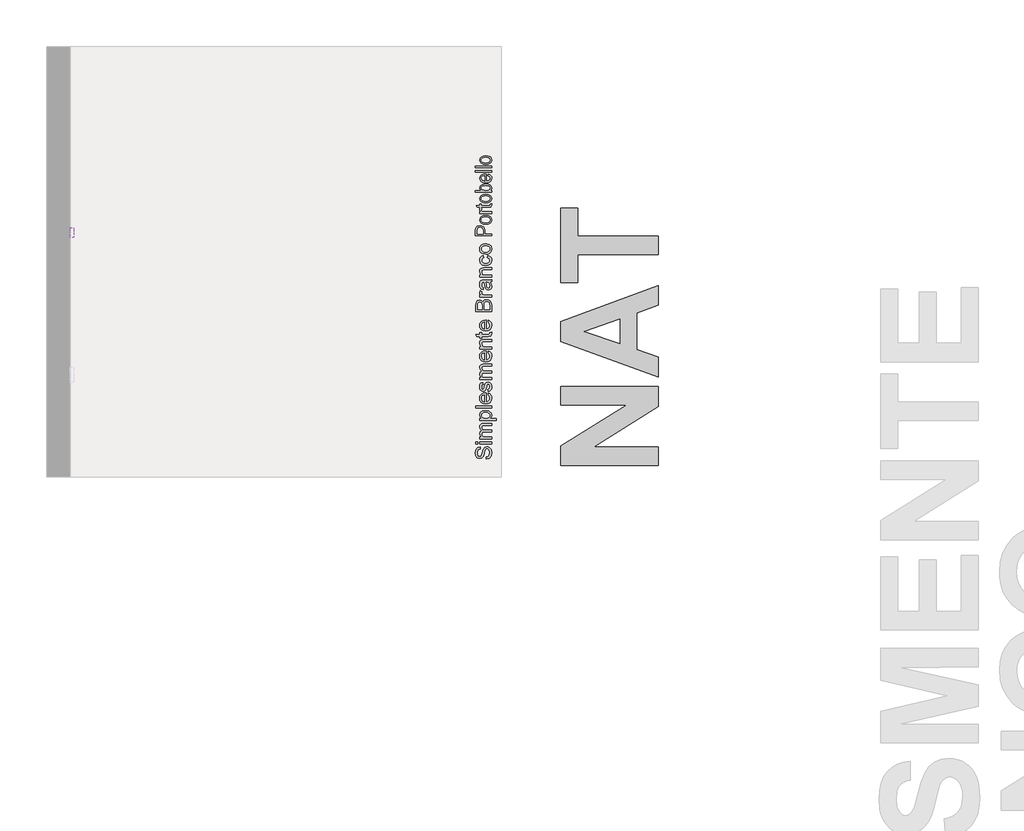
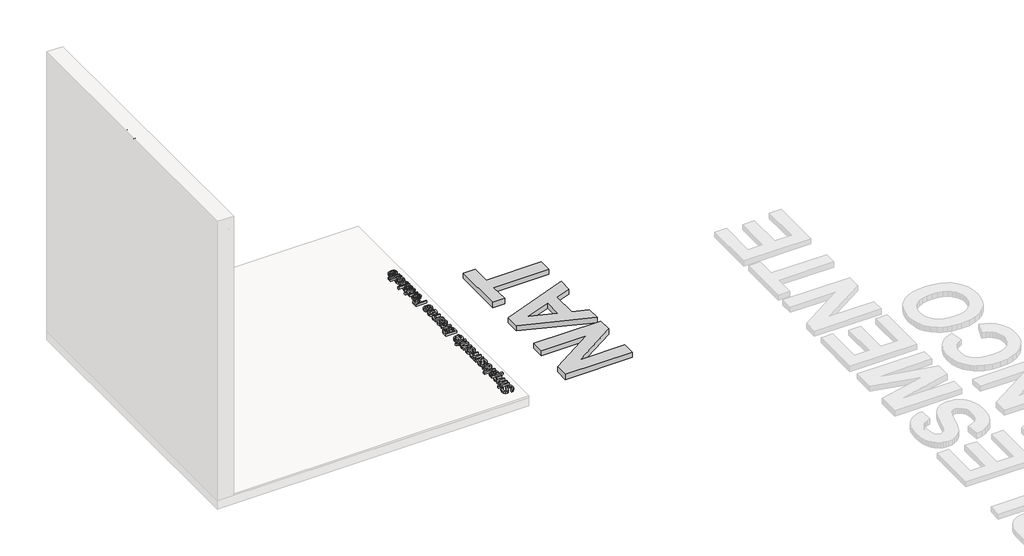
# One storey, part 5 of 6: 4 proxies.
"""IFC4 building model written with IfcOpenShell, lengths in millimetres."""

from ifc_helpers import new_model, si_unit, frame, origin, origin_with_axes, place, context, project, spatial, polyline, outline, extrude, element, save

model = new_model("IFC4")

# Units and contexts
model_context = context("Model", 3, world=origin())
ifc_project = project(units=[si_unit("LENGTHUNIT", "METRE", prefix="MILLI")], contexts=[model_context])

# Site, building, storey
site = spatial("IfcSite", under=ifc_project)
building = spatial("IfcBuilding", under=site)
storey = spatial("IfcBuildingStorey", under=building, Name="PORTOBELLO - SHOWROOM", Elevation=0.0)

# Proxies
placement = place(None, origin())
element("IfcBuildingElementProxy", 1, Name="10mm Arial", ObjectType="10mm Arial", at=placement, inside=storey, context=model_context, shape_type="SweptSolid", body=[
    extrude(outline(polyline([(243776.2626228, -2518.9511253), (243776.2626228, -2506.3940866), (243788.8319243, -2502.3473846), (243796.7781754, -2492.4636217), (243799.8070705, -2477.4049853), (243797.5139394, -2464.2838608), (243791.2108946, -2455.8103122), (243782.7863969, -2453.0266718), (243774.9505104, -2455.1113364), (243769.2483395, -2463.6461987), (243764.4536108, -2481.9299339), (243758.2609305, -2501.6116206), (243748.9167279, -2512.2924612), (243736.4332655, -2515.8118656), (243722.2207577, -2511.4585954), (243712.189842, -2498.7421411), (243708.7685395, -2480.1273121), (243712.3492575, -2460.2616844), (243722.8706826, -2447.0179325), (243738.5915065, -2442.0392629), (243738.5915065, -2454.5963016), (243731.0989766, -2456.9016955), (243725.6911112, -2461.7086869), (243721.3255782, -2479.6368028), (243725.6420603, -2497.6139696), (243736.0653835, -2503.2548269), (243744.771924, -2499.2571759), (243751.7862074, -2478.753886), (243758.0892523, -2456.5338135), (243768.2673208, -2444.3814449), (243782.4675658, -2440.469633), (243797.489414, -2444.9700561), (243808.4522974, -2457.9195023), (243812.3641093, -2476.914476), (243808.1457291, -2499.343015), (243795.4415375, -2513.5309973), (243776.2626228, -2518.9511253)])), frame((0.0, 0.0, 17.0), z_axis=(0.0, 0.0, 1.0), x_axis=(1.0, 0.0, 0.0)), (0.0, 0.0, 1.0), 20.0),
    extrude(outline(polyline([(243722.8952081, -2423.2037047), (243710.3381693, -2423.2037047), (243710.3381693, -2410.6466659), (243722.8952081, -2410.6466659), (243722.8952081, -2423.2037047)])), frame((0.0, 0.0, 17.0), z_axis=(0.0, 0.0, 1.0), x_axis=(1.0, 0.0, 0.0)), (0.0, 0.0, 1.0), 20.0),
    extrude(outline(polyline([(243810.7944794, -2423.2037047), (243737.0218767, -2423.2037047), (243737.0218767, -2410.6466659), (243810.7944794, -2410.6466659), (243810.7944794, -2423.2037047)])), frame((0.0, 0.0, 17.0), z_axis=(0.0, 0.0, 1.0), x_axis=(1.0, 0.0, 0.0)), (0.0, 0.0, 1.0), 20.0),
    extrude(outline(polyline([(243810.7944794, -2391.8111078), (243737.0218767, -2391.8111078), (243737.0218767, -2379.254069), (243749.1619825, -2379.254069), (243739.2169059, -2370.6211049), (243735.4522468, -2358.3338462), (243739.2904823, -2345.752282), (243750.0448993, -2338.8361005), (243739.10041, -2329.0381767), (243735.4522468, -2316.6650789), (243736.9697601, -2307.2258401), (243741.5222998, -2300.2452792), (243749.2324932, -2295.9318628), (243760.2229678, -2294.4940573), (243810.7944794, -2294.4940573), (243810.7944794, -2307.0510961), (243765.6185704, -2307.0510961), (243755.1339336, -2308.2160558), (243749.9713229, -2312.434436), (243748.0092856, -2319.6081349), (243753.0370062, -2331.9567072), (243759.5791744, -2335.6447242), (243769.1502376, -2336.8740632), (243810.7944794, -2336.8740632), (243810.7944794, -2349.4311019), (243764.2206189, -2349.4311019), (243752.0559876, -2352.3373697), (243748.0092856, -2361.8655134), (243750.7070869, -2371.1606651), (243758.6042871, -2377.3410826), (243773.589347, -2379.254069), (243810.7944794, -2379.254069), (243810.7944794, -2391.8111078)])), frame((0.0, 0.0, 17.0), z_axis=(0.0, 0.0, 1.0), x_axis=(1.0, 0.0, 0.0)), (0.0, 0.0, 1.0), 20.0),
    extrude(outline(polyline([(243839.0478167, -2275.6584992), (243737.0218767, -2275.6584992), (243737.0218767, -2263.1014604), (243749.3336608, -2263.1014604), (243738.9226003, -2254.4194453), (243735.4522468, -2242.6962724), (243740.3082892, -2226.7792448), (243753.9934994, -2216.380447), (243773.3440923, -2212.8733053), (243793.6879667, -2216.8341682), (243807.5448552, -2228.3366119), (243812.3641093, -2244.2168513), (243809.1390105, -2255.1429466), (243800.9842929, -2263.1014604), (243839.0478167, -2263.1014604), (243839.0478167, -2275.6584992)]), holes=[polyline([(243774.4967893, -2263.1014604), (243785.7539783, -2261.7433627), (243793.626653, -2257.6690696), (243798.2619661, -2251.6572647), (243799.8070705, -2244.4866315), (243798.2067838, -2237.1995023), (243793.4059238, -2231.0344132), (243785.2450749, -2226.8313614), (243773.5648215, -2225.4303441), (243762.3689462, -2226.7976389), (243754.3859069, -2230.8995231), (243749.6034409, -2236.902131), (243748.0092856, -2243.9715967), (243749.7046085, -2251.0686535), (243754.790577, -2257.3011876), (243763.1077758, -2261.6513922), (243774.4967893, -2263.1014604)])]), frame((0.0, 0.0, 17.0), z_axis=(0.0, 0.0, 1.0), x_axis=(1.0, 0.0, 0.0)), (0.0, 0.0, 1.0), 20.0),
    extrude(outline(polyline([(243810.7944794, -2198.7466367), (243710.3381693, -2198.7466367), (243710.3381693, -2186.189598), (243810.7944794, -2186.189598), (243810.7944794, -2198.7466367)])), frame((0.0, 0.0, 17.0), z_axis=(0.0, 0.0, 1.0), x_axis=(1.0, 0.0, 0.0)), (0.0, 0.0, 1.0), 20.0),
    extrude(outline(polyline([(243788.8196616, -2115.7034077), (243790.3892914, -2103.3916236), (243799.6660491, -2107.8276673), (243806.6006247, -2114.90633), (243810.9232381, -2124.4681962), (243812.3641093, -2136.3538503), (243809.8778401, -2151.0875242), (243802.4190327, -2162.4244211), (243790.4720649, -2169.6533023), (243774.5213147, -2172.0629293), (243758.03407, -2169.6287768), (243745.7038918, -2162.3263192), (243738.0151581, -2151.1427065), (243735.4522468, -2137.0650889), (243738.0090267, -2123.4258639), (243745.6793663, -2112.5273598), (243757.985019, -2105.381252), (243774.4477383, -2102.9992161), (243777.8322527, -2103.0727925), (243777.8322527, -2159.5058906), (243787.2316377, -2157.3323211), (243794.1416878, -2152.2831407), (243798.3907248, -2144.9960115), (243799.8070705, -2136.1085957), (243797.1828456, -2123.7968116), (243788.8196616, -2115.7034077)]), holes=[polyline([(243765.2752139, -2159.5058906), (243765.2752139, -2115.5562549), (243753.8953975, -2120.5839755), (243749.4808136, -2127.9048272), (243748.0092856, -2137.1141398), (243752.7059124, -2152.5774463), (243758.1965512, -2157.4426857), (243765.2752139, -2159.5058906)])]), frame((0.0, 0.0, 17.0), z_axis=(0.0, 0.0, 1.0), x_axis=(1.0, 0.0, 0.0)), (0.0, 0.0, 1.0), 20.0),
    extrude(outline(polyline([(243788.8196616, -2095.1510669), (243787.2500318, -2082.5940281), (243796.569709, -2076.7814926), (243799.8070705, -2063.4641644), (243796.8394891, -2050.6618709), (243789.8742567, -2046.4925417), (243784.2333994, -2050.6863964), (243780.6526813, -2063.6113172), (243774.509052, -2082.5204517), (243767.3353531, -2090.7732711), (243757.2063355, -2093.581437), (243747.8498701, -2091.3250941), (243740.7006966, -2085.1692021), (243736.9850885, -2077.1861628), (243735.4522468, -2066.3826949), (243737.9170562, -2051.1033293), (243744.5879831, -2041.3912447), (243755.8574348, -2037.0747626), (243757.4270647, -2049.6318013), (243750.4986204, -2054.3529536), (243748.0092856, -2065.4016762), (243750.3882558, -2077.4191547), (243755.9310112, -2081.0243983), (243759.5853057, -2079.5283448), (243762.3566834, -2074.8439807), (243765.0299592, -2064.0282501), (243770.9405966, -2045.5973621), (243777.636049, -2037.0379744), (243788.5498815, -2033.9355029), (243800.56736, -2037.5775346), (243809.2861633, -2048.086697), (243812.3641093, -2063.6358426), (243810.8803186, -2076.2971146), (243806.4289464, -2085.5370841), (243799.0590438, -2091.7052389), (243788.8196616, -2095.1510669)])), frame((0.0, 0.0, 17.0), z_axis=(0.0, 0.0, 1.0), x_axis=(1.0, 0.0, 0.0)), (0.0, 0.0, 1.0), 20.0),
    extrude(outline(polyline([(243810.7944794, -2019.8088343), (243737.0218767, -2019.8088343), (243737.0218767, -2007.2517955), (243749.1619825, -2007.2517955), (243739.2169059, -1998.6188313), (243735.4522468, -1986.3315727), (243739.2904823, -1973.7500085), (243750.0448993, -1966.833827), (243739.10041, -1957.0359032), (243735.4522468, -1944.6628054), (243736.9697601, -1935.2235665), (243741.5222998, -1928.2430057), (243749.2324932, -1923.9295893), (243760.2229678, -1922.4917838), (243810.7944794, -1922.4917838), (243810.7944794, -1935.0488226), (243765.6185704, -1935.0488226), (243755.1339336, -1936.2137822), (243749.9713229, -1940.4321624), (243748.0092856, -1947.6058614), (243753.0370062, -1959.9544337), (243759.5791744, -1963.6424507), (243769.1502376, -1964.8717897), (243810.7944794, -1964.8717897), (243810.7944794, -1977.4288284), (243764.2206189, -1977.4288284), (243752.0559876, -1980.3350962), (243748.0092856, -1989.8632399), (243750.7070869, -1999.1583916), (243758.6042871, -2005.3388091), (243773.589347, -2007.2517955), (243810.7944794, -2007.2517955), (243810.7944794, -2019.8088343)])), frame((0.0, 0.0, 17.0), z_axis=(0.0, 0.0, 1.0), x_axis=(1.0, 0.0, 0.0)), (0.0, 0.0, 1.0), 20.0),
    extrude(outline(polyline([(243788.8196616, -1852.0055935), (243790.3892914, -1839.6938094), (243799.6660491, -1844.1298532), (243806.6006247, -1851.2085159), (243810.9232381, -1860.7703821), (243812.3641093, -1872.6560362), (243809.8778401, -1887.3897101), (243802.4190327, -1898.7266069), (243790.4720649, -1905.9554881), (243774.5213147, -1908.3651152), (243758.03407, -1905.9309627), (243745.7038918, -1898.6285051), (243738.0151581, -1887.4448924), (243735.4522468, -1873.3672747), (243738.0090267, -1859.7280498), (243745.6793663, -1848.8295456), (243757.985019, -1841.6834379), (243774.4477383, -1839.301402), (243777.8322527, -1839.3749784), (243777.8322527, -1895.8080764), (243787.2316377, -1893.634507), (243794.1416878, -1888.5853266), (243798.3907248, -1881.2981974), (243799.8070705, -1872.4107815), (243797.1828456, -1860.0989974), (243788.8196616, -1852.0055935)]), holes=[polyline([(243765.2752139, -1895.8080764), (243765.2752139, -1851.8584407), (243753.8953975, -1856.8861613), (243749.4808136, -1864.207013), (243748.0092856, -1873.4163257), (243752.7059124, -1888.8796322), (243758.1965512, -1893.7448716), (243765.2752139, -1895.8080764)])]), frame((0.0, 0.0, 17.0), z_axis=(0.0, 0.0, 1.0), x_axis=(1.0, 0.0, 0.0)), (0.0, 0.0, 1.0), 20.0),
    extrude(outline(polyline([(243810.7944794, -1826.7443632), (243737.0218767, -1826.7443632), (243737.0218767, -1814.1873244), (243747.3225725, -1814.1873244), (243738.4198283, -1804.5856044), (243735.4522468, -1791.4767426), (243737.8434798, -1779.6186796), (243744.1219992, -1771.5252757), (243753.3558373, -1767.7606166), (243765.4959431, -1767.0984291), (243810.7944794, -1767.0984291), (243810.7944794, -1779.6554678), (243767.1882003, -1779.6554678), (243756.078164, -1781.1024703), (243750.2043148, -1786.2160301), (243748.0092856, -1794.8367315), (243752.9389043, -1808.460628), (243760.0819464, -1812.7556503), (243771.6518352, -1814.1873244), (243810.7944794, -1814.1873244), (243810.7944794, -1826.7443632)])), frame((0.0, 0.0, 17.0), z_axis=(0.0, 0.0, 1.0), x_axis=(1.0, 0.0, 0.0)), (0.0, 0.0, 1.0), 20.0),
    extrude(outline(polyline([(243800.3221053, -1723.1487934), (243811.1623614, -1721.5791635), (243812.3641093, -1730.9724171), (243810.2794447, -1741.4938422), (243804.8102657, -1746.742292), (243790.5609697, -1748.2628709), (243749.5789155, -1748.2628709), (243749.5789155, -1757.68065), (243737.0218767, -1757.68065), (243737.0218767, -1748.2628709), (243719.0937608, -1748.2628709), (243711.7115954, -1735.7058321), (243737.0218767, -1735.7058321), (243737.0218767, -1723.1487934), (243749.5789155, -1723.1487934), (243749.5789155, -1735.7058321), (243790.1930877, -1735.7058321), (243796.6678108, -1735.0436445), (243798.9609419, -1732.8976662), (243799.8070705, -1728.6179724), (243800.3221053, -1723.1487934)])), frame((0.0, 0.0, 17.0), z_axis=(0.0, 0.0, 1.0), x_axis=(1.0, 0.0, 0.0)), (0.0, 0.0, 1.0), 20.0),
    extrude(outline(polyline([(243788.8196616, -1658.9411225), (243790.3892914, -1646.6293384), (243799.6660491, -1651.0653821), (243806.6006247, -1658.1440448), (243810.9232381, -1667.705911), (243812.3641093, -1679.5915651), (243809.8778401, -1694.325239), (243802.4190327, -1705.6621359), (243790.4720649, -1712.8910171), (243774.5213147, -1715.3006441), (243758.03407, -1712.8664916), (243745.7038918, -1705.564034), (243738.0151581, -1694.3804213), (243735.4522468, -1680.3028037), (243738.0090267, -1666.6635787), (243745.6793663, -1655.7650746), (243757.985019, -1648.6189668), (243774.4477383, -1646.2369309), (243777.8322527, -1646.3105073), (243777.8322527, -1702.7436054), (243787.2316377, -1700.5700359), (243794.1416878, -1695.5208555), (243798.3907248, -1688.2337263), (243799.8070705, -1679.3463105), (243797.1828456, -1667.0345264), (243788.8196616, -1658.9411225)]), holes=[polyline([(243765.2752139, -1702.7436054), (243765.2752139, -1658.7939697), (243753.8953975, -1663.8216903), (243749.4808136, -1671.142542), (243748.0092856, -1680.3518546), (243752.7059124, -1695.8151611), (243758.1965512, -1700.6804005), (243765.2752139, -1702.7436054)])]), frame((0.0, 0.0, 17.0), z_axis=(0.0, 0.0, 1.0), x_axis=(1.0, 0.0, 0.0)), (0.0, 0.0, 1.0), 20.0),
    extrude(outline(polyline([(243810.7944794, -1592.8695161), (243710.3381693, -1592.8695161), (243710.3381693, -1554.5362122), (243713.293488, -1535.7619678), (243722.3801733, -1524.676457), (243735.2315176, -1520.6665432), (243746.9669533, -1524.0387948), (243755.8574348, -1534.2291261), (243765.226163, -1521.8560283), (243780.848885, -1517.5272835), (243794.3501543, -1520.4826022), (243803.9641371, -1527.8034539), (243809.0654341, -1538.7295492), (243810.7944794, -1554.8305178), (243810.7944794, -1592.8695161)]), holes=[polyline([(243751.1485453, -1580.3124774), (243751.1485453, -1557.3811663), (243750.0694248, -1543.9902617), (243745.4218489, -1535.933646), (243737.2426059, -1533.223582), (243729.0511001, -1535.749705), (243724.2073205, -1542.9847176), (243722.8952081, -1559.1224744), (243722.8952081, -1580.3124774), (243751.1485453, -1580.3124774)]), polyline([(243798.2374407, -1580.3124774), (243798.2374407, -1554.5607377), (243797.7469314, -1545.2410605), (243795.0123419, -1537.3561231), (243789.4327983, -1532.1321987), (243780.9715124, -1530.0843223), (243771.2103768, -1532.487818), (243765.3855785, -1540.2746536), (243763.7055841, -1555.787011), (243763.7055841, -1580.3124774), (243798.2374407, -1580.3124774)])]), frame((0.0, 0.0, 17.0), z_axis=(0.0, 0.0, 1.0), x_axis=(1.0, 0.0, 0.0)), (0.0, 0.0, 1.0), 20.0),
    extrude(outline(polyline([(243810.7944794, -1501.8309851), (243737.0218767, -1501.8309851), (243737.0218767, -1490.8435761), (243747.9357092, -1490.8435761), (243737.880268, -1483.0444778), (243735.4522468, -1475.1963286), (243739.3272705, -1462.5902389), (243750.5844596, -1466.7840937), (243748.0092856, -1475.6132615), (243750.4863577, -1482.713384), (243757.3534883, -1487.2383326), (243772.0197172, -1489.2739463), (243810.7944794, -1489.2739463), (243810.7944794, -1501.8309851)])), frame((0.0, 0.0, 17.0), z_axis=(0.0, 0.0, 1.0), x_axis=(1.0, 0.0, 0.0)), (0.0, 0.0, 1.0), 20.0),
    extrude(outline(polyline([(243801.3767004, -1407.6531943), (243809.8870372, -1419.8300883), (243812.3641093, -1433.2823066), (243810.8741872, -1443.7761405), (243806.404421, -1451.5169909), (243799.6169982, -1456.2902597), (243791.1741064, -1457.8813494), (243781.2412925, -1455.4778537), (243774.0308054, -1449.1625461), (243769.9105271, -1440.3701664), (243768.0220661, -1429.5053848), (243763.7055841, -1407.7267707), (243760.9096809, -1407.6531943), (243751.6390546, -1411.1112851), (243748.0092856, -1424.992699), (243750.425044, -1437.6968906), (243758.9966945, -1443.7546808), (243757.4270647, -1456.3117195), (243745.1643315, -1450.8793287), (243737.9783699, -1439.9409707), (243735.4522468, -1423.3740182), (243737.6840643, -1408.1559664), (243743.2881333, -1399.5597904), (243751.8107329, -1395.7092922), (243762.7981418, -1395.0961555), (243778.4208639, -1395.0961555), (243800.2362662, -1394.4584934), (243810.7944794, -1391.9568958), (243810.7944794, -1404.5139346), (243801.3767004, -1407.6531943)]), holes=[polyline([(243776.2626228, -1407.6531943), (243780.1131211, -1427.9112295), (243782.1487348, -1438.7146974), (243785.4596727, -1443.607528), (243790.2911896, -1445.3243106), (243797.0847438, -1441.584177), (243799.8070705, -1430.6090308), (243796.8027009, -1417.9048392), (243789.5309001, -1409.7133335), (243779.8188155, -1407.7267707), (243776.2626228, -1407.6531943)])]), frame((0.0, 0.0, 17.0), z_axis=(0.0, 0.0, 1.0), x_axis=(1.0, 0.0, 0.0)), (0.0, 0.0, 1.0), 20.0),
    extrude(outline(polyline([(243810.7944794, -1377.8302272), (243737.0218767, -1377.8302272), (243737.0218767, -1365.2731885), (243747.3225725, -1365.2731885), (243738.4198283, -1355.6714684), (243735.4522468, -1342.5626066), (243737.8434798, -1330.7045436), (243744.1219992, -1322.6111397), (243753.3558373, -1318.8464807), (243765.4959431, -1318.1842931), (243810.7944794, -1318.1842931), (243810.7944794, -1330.7413318), (243767.1882003, -1330.7413318), (243756.078164, -1332.1883344), (243750.2043148, -1337.3018941), (243748.0092856, -1345.9225955), (243752.9389043, -1359.5464921), (243760.0819464, -1363.8415144), (243771.6518352, -1365.2731885), (243810.7944794, -1365.2731885), (243810.7944794, -1377.8302272)])), frame((0.0, 0.0, 17.0), z_axis=(0.0, 0.0, 1.0), x_axis=(1.0, 0.0, 0.0)), (0.0, 0.0, 1.0), 20.0),
    extrude(outline(polyline([(243784.1107721, -1253.8294694), (243785.6804019, -1241.2724306), (243796.8486861, -1244.7734409), (243805.2885123, -1251.3523973), (243810.59521, -1260.3900316), (243812.3641093, -1271.267076), (243809.8962342, -1284.6242581), (243802.4926091, -1295.069041), (243790.4781963, -1301.8104786), (243774.1779582, -1304.0576245), (243753.3190491, -1300.219389), (243739.9158817, -1288.5207415), (243735.4522468, -1271.4387542), (243736.9850885, -1260.8284243), (243741.5836134, -1252.3456787), (243749.002567, -1246.2602973), (243758.9966945, -1242.8420605), (243760.5663244, -1255.3990992), (243751.160808, -1261.2238975), (243748.0092856, -1271.3406524), (243749.5605214, -1279.455516), (243754.2142286, -1285.8965166), (243762.2217934, -1290.0995684), (243773.8346017, -1291.5005857), (243785.6037598, -1290.1302253), (243793.6389157, -1286.019144), (243798.2650318, -1279.6946393), (243799.8070705, -1271.6840089), (243795.9565723, -1259.8504714), (243784.1107721, -1253.8294694)])), frame((0.0, 0.0, 17.0), z_axis=(0.0, 0.0, 1.0), x_axis=(1.0, 0.0, 0.0)), (0.0, 0.0, 1.0), 20.0),
    extrude(outline(polyline([(243773.9081781, -1233.4242814), (243756.1210836, -1230.708086), (243743.6192271, -1222.5594998), (243737.4939919, -1212.4917959), (243735.4522468, -1200.4375291), (243737.938516, -1187.2458939), (243745.3973234, -1176.7091405), (243757.240058, -1169.802156), (243772.8781085, -1167.4998278), (243795.2208083, -1171.5710553), (243807.8636862, -1183.4291182), (243812.3641093, -1200.4375291), (243809.8870372, -1213.7885799), (243802.4558209, -1224.3130706), (243790.364766, -1231.1464787), (243773.9081781, -1233.4242814)]), holes=[polyline([(243773.8836526, -1220.8672426), (243785.2481406, -1219.4141087), (243793.3446101, -1215.0547071), (243798.1914554, -1208.4941448), (243799.8070705, -1200.4375291), (243798.1822584, -1192.4177017), (243793.3078219, -1185.8694021), (243785.1040535, -1181.5100005), (243773.4912451, -1180.0568666), (243762.457851, -1181.5191975), (243754.471746, -1185.9061903), (243749.6249007, -1192.4636869), (243748.0092856, -1200.4375291), (243749.6187693, -1208.4941448), (243754.4472205, -1215.0547071), (243762.525296, -1219.4141087), (243773.8836526, -1220.8672426)])]), frame((0.0, 0.0, 17.0), z_axis=(0.0, 0.0, 1.0), x_axis=(1.0, 0.0, 0.0)), (0.0, 0.0, 1.0), 20.0),
])
element("IfcBuildingElementProxy", 2, Name="10mm Arial Narrow", ObjectType="10mm Arial Narrow", at=placement, inside=storey, context=model_context, shape_type="SweptSolid", body=[
    extrude(outline(polyline([(243810.7944794, -1116.9283362), (243710.0758757, -1116.9283362), (243710.0758757, -1085.6314515), (243711.9541964, -1069.33575), (243721.4346396, -1057.8627638), (243738.4537484, -1053.5730854), (243750.529574, -1055.3593938), (243760.1559677, -1060.718319), (243766.4572261, -1070.4621078), (243768.5576456, -1085.4030071), (243768.5576456, -1107.1813745), (243810.7944794, -1107.1813745), (243810.7944794, -1116.9283362)]), holes=[polyline([(243757.1861904, -1107.1813745), (243757.1861904, -1084.2100196), (243752.6553761, -1068.3458242), (243738.9867854, -1063.3200471), (243728.821009, -1065.7948615), (243723.0210591, -1071.7724904), (243721.447331, -1084.438464), (243721.447331, -1107.1813745), (243757.1861904, -1107.1813745)])]), frame((0.0, 0.0, 17.0), z_axis=(0.0, 0.0, 1.0), x_axis=(1.0, 0.0, 0.0)), (0.0, 0.0, 1.0), 20.0),
    extrude(outline(polyline([(243774.2433732, -1045.4506174), (243757.6525977, -1043.4961485), (243745.7005129, -1037.6327419), (243738.4759583, -1028.7741752), (243736.0677734, -1017.834226), (243738.4759583, -1007.0211904), (243745.7005129, -998.137241), (243757.4622274, -992.1976863), (243773.4818919, -990.2178347), (243790.6437785, -992.162785), (243802.7862336, -997.9976361), (243810.0107882, -1006.8466843), (243812.4189731, -1017.834226), (243810.0044425, -1028.6948542), (243802.7608509, -1037.5692851), (243790.8024204, -1043.4802843), (243774.2433732, -1045.4506174)]), holes=[polyline([(243774.2179905, -1035.7036557), (243786.7697419, -1034.3996189), (243795.641, -1030.4875083), (243800.9142586, -1024.6463115), (243802.6720114, -1017.5550162), (243800.8983944, -1010.834943), (243795.5775432, -1005.1428697), (243786.690421, -1001.2593147), (243774.2179905, -999.9647963), (243761.7043132, -1001.2688332), (243752.8457465, -1005.1809438), (243747.5724879, -1011.0221405), (243745.8147351, -1018.1134359), (243747.5820065, -1024.8811016), (243752.8838206, -1030.5636564), (243761.7519058, -1034.4186559), (243774.2179905, -1035.7036557)])]), frame((0.0, 0.0, 17.0), z_axis=(0.0, 0.0, 1.0), x_axis=(1.0, 0.0, 0.0)), (0.0, 0.0, 1.0), 20.0),
    extrude(outline(polyline([(243802.6720114, -918.7401159), (243812.4189731, -917.1156223), (243812.4189731, -924.4766089), (243810.2995166, -932.7513732), (243804.4995667, -937.0664344), (243789.8537415, -938.2340392), (243747.4392287, -938.2340392), (243747.4392287, -946.3565072), (243744.1902415, -946.3565072), (243749.0637223, -947.9810008), (243747.4392287, -955.5450492), (243749.7617469, -961.6242089), (243756.24703, -965.4950726), (243771.6543366, -967.4749241), (243810.7944794, -967.4749241), (243810.7944794, -977.2218858), (243737.692267, -977.2218858), (243737.692267, -967.4749241), (243747.3884633, -967.4749241), (243738.3014522, -961.2307768), (243736.0677734, -954.8343332), (243737.692267, -946.3565072), (243737.692267, -938.2340392), (243721.447331, -938.2340392), (243713.3248629, -928.4870775), (243737.692267, -928.4870775), (243737.692267, -918.7401159), (243747.4392287, -918.7401159), (243747.4392287, -928.4870775), (243792.0874202, -928.4870775), (243800.0829747, -927.6240653), (243802.6720114, -923.0044116), (243802.6720114, -918.7401159)])), frame((0.0, 0.0, 17.0), z_axis=(0.0, 0.0, 1.0), x_axis=(1.0, 0.0, 0.0)), (0.0, 0.0, 1.0), 20.0),
    extrude(outline(polyline([(243774.2433732, -912.2421414), (243757.6525977, -910.2876726), (243745.7005129, -904.4242659), (243738.4759583, -895.5656992), (243736.0677734, -884.6257501), (243738.4759583, -873.8127145), (243745.7005129, -864.9287651), (243757.4622274, -858.9892103), (243773.4818919, -857.0093587), (243790.6437785, -858.9543091), (243802.7862336, -864.7891602), (243810.0107882, -873.6382084), (243812.4189731, -884.6257501), (243810.0044425, -895.4863783), (243802.7608509, -904.3608092), (243790.8024204, -910.2718084), (243774.2433732, -912.2421414)]), holes=[polyline([(243774.2179905, -902.4951798), (243786.7697419, -901.1911429), (243795.641, -897.2790323), (243800.9142586, -891.4378356), (243802.6720114, -884.3465402), (243800.8983944, -877.6264671), (243795.5775432, -871.9343938), (243786.690421, -868.0508387), (243774.2179905, -866.7563204), (243761.7043132, -868.0603572), (243752.8457465, -871.9724678), (243747.5724879, -877.8136646), (243745.8147351, -884.9049599), (243747.5820065, -891.6726257), (243752.8838206, -897.3551805), (243761.7519058, -901.21018), (243774.2179905, -902.4951798)])]), frame((0.0, 0.0, 17.0), z_axis=(0.0, 0.0, 1.0), x_axis=(1.0, 0.0, 0.0)), (0.0, 0.0, 1.0), 20.0),
    extrude(outline(polyline([(243810.7944794, -834.2664482), (243810.7944794, -844.0134099), (243710.0758757, -844.0134099), (243710.0758757, -834.2664482), (243745.4847598, -834.2664482), (243738.402983, -826.8673875), (243736.0677734, -817.6661541), (243740.2686124, -804.7844275), (243752.9980428, -795.507046), (243773.6849536, -792.0296144), (243790.139297, -793.9618734), (243802.3420361, -799.7586504), (243809.8997388, -808.1317727), (243812.4189731, -817.7930677), (243809.8045537, -827.133906), (243802.0374436, -834.2664482), (243810.7944794, -834.2664482)]), holes=[polyline([(243773.6849536, -834.2664482), (243790.9325068, -832.1850658), (243799.66416, -826.2962764), (243802.6720114, -817.8438331), (243800.8825302, -811.9011055), (243795.5140864, -806.6627482), (243774.091077, -801.776576), (243752.6553761, -806.4850692), (243747.5248954, -811.7297722), (243745.8147351, -818.0468948), (243747.6042163, -824.0245237), (243752.9726601, -829.3168192), (243773.6849536, -834.2664482)])]), frame((0.0, 0.0, 17.0), z_axis=(0.0, 0.0, 1.0), x_axis=(1.0, 0.0, 0.0)), (0.0, 0.0, 1.0), 20.0),
    extrude(outline(polyline([(243788.0515689, -740.0458189), (243789.6760625, -730.2988572), (243799.5626291, -733.9983876), (243806.68248, -739.8173745), (243810.9848498, -747.5210278), (243812.4189731, -756.8745574), (243810.0044425, -768.4681114), (243802.7608509, -777.6122336), (243790.9547167, -783.5517884), (243774.8525584, -785.5316399), (243758.1856347, -783.5422698), (243746.0051054, -777.5741595), (243738.5521064, -768.5601237), (243736.0677734, -757.432977), (243738.4664398, -746.7500279), (243745.6624388, -738.0025105), (243757.4019434, -732.1676595), (243773.4311264, -730.2227091), (243776.6801137, -730.2988572), (243776.6801137, -775.7846783), (243796.1232715, -769.7816667), (243801.0348264, -763.8516305), (243802.6720114, -756.7476438), (243799.0169008, -746.569176), (243788.0515689, -740.0458189)]), holes=[polyline([(243766.933152, -775.1247278), (243766.933152, -740.0458189), (243752.6680675, -744.3101146), (243747.5280682, -750.1354472), (243745.8147351, -757.3568289), (243751.5258454, -769.5659137), (243766.933152, -775.1247278)])]), frame((0.0, 0.0, 17.0), z_axis=(0.0, 0.0, 1.0), x_axis=(1.0, 0.0, 0.0)), (0.0, 0.0, 1.0), 20.0),
    extrude(outline(polyline([(243810.7944794, -717.3029084), (243710.0758757, -717.3029084), (243710.0758757, -707.5559467), (243810.7944794, -707.5559467), (243810.7944794, -717.3029084)])), frame((0.0, 0.0, 17.0), z_axis=(0.0, 0.0, 1.0), x_axis=(1.0, 0.0, 0.0)), (0.0, 0.0, 1.0), 20.0),
    extrude(outline(polyline([(243810.7944794, -691.3110106), (243710.0758757, -691.3110106), (243710.0758757, -681.564049), (243810.7944794, -681.564049), (243810.7944794, -691.3110106)])), frame((0.0, 0.0, 17.0), z_axis=(0.0, 0.0, 1.0), x_axis=(1.0, 0.0, 0.0)), (0.0, 0.0, 1.0), 20.0),
    extrude(outline(polyline([(243774.2433732, -670.1925937), (243757.6525977, -668.2381248), (243745.7005129, -662.3747182), (243738.4759583, -653.5161515), (243736.0677734, -642.5762024), (243738.4759583, -631.7631668), (243745.7005129, -622.8792173), (243757.4622274, -616.9396626), (243773.4818919, -614.959811), (243790.6437785, -616.9047614), (243802.7862336, -622.7396124), (243810.0107882, -631.5886606), (243812.4189731, -642.5762024), (243810.0044425, -653.4368305), (243802.7608509, -662.3112614), (243790.8024204, -668.2222606), (243774.2433732, -670.1925937)]), holes=[polyline([(243774.2179905, -660.4456321), (243786.7697419, -659.1415952), (243795.641, -655.2294846), (243800.9142586, -649.3882879), (243802.6720114, -642.2969925), (243800.8983944, -635.5769193), (243795.5775432, -629.884846), (243786.690421, -626.001291), (243774.2179905, -624.7067727), (243761.7043132, -626.0108095), (243752.8457465, -629.9229201), (243747.5724879, -635.7641169), (243745.8147351, -642.8554122), (243747.5820065, -649.623078), (243752.8838206, -655.3056327), (243761.7519058, -659.1606322), (243774.2179905, -660.4456321)])]), frame((0.0, 0.0, 17.0), z_axis=(0.0, 0.0, 1.0), x_axis=(1.0, 0.0, 0.0)), (0.0, 0.0, 1.0), 20.0),
])
element("IfcBuildingElementProxy", 3, Name="10mm Arial Narrow", ObjectType="10mm Arial Narrow", at=placement, inside=storey, context=model_context, shape_type="SweptSolid", body=[
    extrude(outline(polyline([(-1130.2020504, 2478.2261649), (-1130.2020504, 2578.9447687), (-1098.9051657, 2578.9447687), (-1082.6094642, 2577.066448), (-1071.1364781, 2567.5860048), (-1066.8467996, 2550.566896), (-1068.633108, 2538.4910704), (-1073.9920333, 2528.8646767), (-1083.7358221, 2522.5634182), (-1098.6767213, 2520.4629988), (-1120.4550887, 2520.4629988), (-1120.4550887, 2478.2261649), (-1130.2020504, 2478.2261649)]), holes=[polyline([(-1120.4550887, 2531.834454), (-1097.4837338, 2531.834454), (-1081.6195384, 2536.3652682), (-1076.5937613, 2550.033859), (-1079.0685758, 2560.1996354), (-1085.0462046, 2565.9995852), (-1097.7121782, 2567.5733134), (-1120.4550887, 2567.5733134), (-1120.4550887, 2531.834454)])]), frame((241170.995962, 0.0, 0.0), z_axis=(1.0, 0.0, 0.0), x_axis=(0.0, 1.0, 0.0)), (0.0, 0.0, 1.0), 20.0),
    extrude(outline(polyline([(-1058.7243316, 2514.7772711), (-1056.7698627, 2531.3680467), (-1050.9064561, 2543.3201315), (-1042.0478894, 2550.5446861), (-1031.1079402, 2552.9528709), (-1020.2949047, 2550.5446861), (-1011.4109552, 2543.3201315), (-1005.4714005, 2531.558417), (-1003.4915489, 2515.5387525), (-1005.4364993, 2498.3768659), (-1011.2713503, 2486.2344108), (-1020.1203985, 2479.0098562), (-1031.1079402, 2476.6016713), (-1041.9685684, 2479.0162019), (-1050.8429993, 2486.2597935), (-1056.7539985, 2498.218224), (-1058.7243316, 2514.7772711)]), holes=[polyline([(-1048.9773699, 2514.8026538), (-1047.6733331, 2502.2509024), (-1043.7612225, 2493.3796444), (-1037.9200258, 2488.1063858), (-1030.8287304, 2486.348633), (-1024.1086572, 2488.12225), (-1018.4165839, 2493.4431012), (-1014.5330289, 2502.3302234), (-1013.2385105, 2514.8026538), (-1014.5425474, 2527.3163312), (-1018.454658, 2536.1748979), (-1024.2958547, 2541.4481564), (-1031.3871501, 2543.2059093), (-1038.1548158, 2541.4386379), (-1043.8373706, 2536.1368238), (-1047.6923701, 2527.2687386), (-1048.9773699, 2514.8026538)])]), frame((241170.995962, 0.0, 0.0), z_axis=(1.0, 0.0, 0.0), x_axis=(0.0, 1.0, 0.0)), (0.0, 0.0, 1.0), 20.0),
    extrude(outline(polyline([(-932.0138301, 2486.348633), (-930.3893365, 2476.6016713), (-937.7503232, 2476.6016713), (-946.0250875, 2478.7211278), (-950.3401486, 2484.5210777), (-951.5077534, 2499.1669029), (-951.5077534, 2541.5814157), (-959.6302215, 2541.5814157), (-959.6302215, 2544.8304029), (-961.2547151, 2539.9569221), (-968.8187634, 2541.5814157), (-974.8979231, 2539.2588975), (-978.7687868, 2532.7736144), (-980.7486384, 2517.3663078), (-980.7486384, 2478.2261649), (-990.4956, 2478.2261649), (-990.4956, 2551.3283773), (-980.7486384, 2551.3283773), (-980.7486384, 2541.6321811), (-974.5044911, 2550.7191922), (-968.1080475, 2552.9528709), (-959.6302215, 2551.3283773), (-951.5077534, 2551.3283773), (-951.5077534, 2567.5733134), (-941.7607918, 2575.6957815), (-941.7607918, 2551.3283773), (-932.0138301, 2551.3283773), (-932.0138301, 2541.5814157), (-941.7607918, 2541.5814157), (-941.7607918, 2496.9332242), (-940.8977795, 2488.9376697), (-936.2781258, 2486.348633), (-932.0138301, 2486.348633)])), frame((241170.995962, 0.0, 0.0), z_axis=(1.0, 0.0, 0.0), x_axis=(0.0, 1.0, 0.0)), (0.0, 0.0, 1.0), 20.0),
    extrude(outline(polyline([(-925.5158557, 2514.7772711), (-923.5613868, 2531.3680467), (-917.6979802, 2543.3201315), (-908.8394135, 2550.5446861), (-897.8994643, 2552.9528709), (-887.0864287, 2550.5446861), (-878.2024793, 2543.3201315), (-872.2629245, 2531.558417), (-870.283073, 2515.5387525), (-872.2280233, 2498.3768659), (-878.0628744, 2486.2344108), (-886.9119226, 2479.0098562), (-897.8994643, 2476.6016713), (-908.7600925, 2479.0162019), (-917.6345234, 2486.2597935), (-923.5455226, 2498.218224), (-925.5158557, 2514.7772711)]), holes=[polyline([(-915.768894, 2514.8026538), (-914.4648572, 2502.2509024), (-910.5527466, 2493.3796444), (-904.7115498, 2488.1063858), (-897.6202545, 2486.348633), (-890.9001813, 2488.12225), (-885.208108, 2493.4431012), (-881.324553, 2502.3302234), (-880.0300346, 2514.8026538), (-881.3340715, 2527.3163312), (-885.2461821, 2536.1748979), (-891.0873788, 2541.4481564), (-898.1786742, 2543.2059093), (-904.9463399, 2541.4386379), (-910.6288947, 2536.1368238), (-914.4838942, 2527.2687386), (-915.768894, 2514.8026538)])]), frame((241170.995962, 0.0, 0.0), z_axis=(1.0, 0.0, 0.0), x_axis=(0.0, 1.0, 0.0)), (0.0, 0.0, 1.0), 20.0),
    extrude(outline(polyline([(-847.5401624, 2478.2261649), (-857.2871241, 2478.2261649), (-857.2871241, 2578.9447687), (-847.5401624, 2578.9447687), (-847.5401624, 2543.5358846), (-840.1411017, 2550.6176614), (-830.9398684, 2552.9528709), (-818.0581417, 2548.752032), (-808.7807602, 2536.0226016), (-805.3033286, 2515.3356908), (-807.2355876, 2498.8813473), (-813.0323646, 2486.6786082), (-821.4054869, 2479.1209056), (-831.0667819, 2476.6016713), (-840.4076202, 2479.2160907), (-847.5401624, 2486.9832008), (-847.5401624, 2478.2261649)]), holes=[polyline([(-847.5401624, 2515.3356908), (-845.45878, 2498.0881376), (-839.5699907, 2489.3564844), (-831.1175474, 2486.348633), (-825.1748198, 2488.1381142), (-819.9364624, 2493.5065579), (-815.0502903, 2514.9295674), (-819.7587835, 2536.3652682), (-825.0034865, 2541.495749), (-831.3206091, 2543.2059093), (-837.2982379, 2541.4164281), (-842.5905335, 2536.0479843), (-847.5401624, 2515.3356908)])]), frame((241170.995962, 0.0, 0.0), z_axis=(1.0, 0.0, 0.0), x_axis=(0.0, 1.0, 0.0)), (0.0, 0.0, 1.0), 20.0),
    extrude(outline(polyline([(-753.3195331, 2500.9690755), (-743.5725715, 2499.3445819), (-747.2721018, 2489.4580153), (-753.0910887, 2482.3381644), (-760.794742, 2478.0357946), (-770.1482716, 2476.6016713), (-781.7418256, 2479.0162019), (-790.8859478, 2486.2597935), (-796.8255026, 2498.0659277), (-798.8053542, 2514.168086), (-796.8159841, 2530.8350097), (-790.8478738, 2543.0155389), (-781.8338379, 2550.4685379), (-770.7066913, 2552.9528709), (-760.0237421, 2550.5542046), (-751.2762248, 2543.3582056), (-745.4413737, 2531.618701), (-743.4964233, 2515.5895179), (-743.5725715, 2512.3405307), (-789.0583925, 2512.3405307), (-783.055381, 2492.8973728), (-777.1253447, 2487.9858179), (-770.021358, 2486.348633), (-759.8428903, 2490.0037436), (-753.3195331, 2500.9690755)]), holes=[polyline([(-788.398442, 2522.0874924), (-753.3195331, 2522.0874924), (-757.5838288, 2536.3525769), (-763.4091614, 2541.4925762), (-770.6305431, 2543.2059093), (-782.8396279, 2537.4947989), (-788.398442, 2522.0874924)])]), frame((241170.995962, 0.0, 0.0), z_axis=(1.0, 0.0, 0.0), x_axis=(0.0, 1.0, 0.0)), (0.0, 0.0, 1.0), 20.0),
    extrude(outline(polyline([(241190.995962, -720.8296609), (241190.995962, -730.5766226), (241170.995962, -730.5766226), (241170.995962, -720.8296609), (241190.995962, -720.8296609)])), frame((0.0, 0.0, 2478.2261649), z_axis=(0.0, 0.0, 1.0), x_axis=(1.0, 0.0, 0.0)), (0.0, 0.0, 1.0), 100.7186038),
    extrude(outline(polyline([(241190.995962, -694.8377632), (241190.995962, -704.5847249), (241170.995962, -704.5847249), (241170.995962, -694.8377632), (241190.995962, -694.8377632)])), frame((0.0, 0.0, 2478.2261649), z_axis=(0.0, 0.0, 1.0), x_axis=(1.0, 0.0, 0.0)), (0.0, 0.0, 1.0), 100.7186038),
    extrude(outline(polyline([(-683.4663079, 2514.7772711), (-681.5118391, 2531.3680467), (-675.6484324, 2543.3201315), (-666.7898657, 2550.5446861), (-655.8499166, 2552.9528709), (-645.036881, 2550.5446861), (-636.1529316, 2543.3201315), (-630.2133768, 2531.558417), (-628.2335252, 2515.5387525), (-630.1784756, 2498.3768659), (-636.0133267, 2486.2344108), (-644.8623749, 2479.0098562), (-655.8499166, 2476.6016713), (-666.7105448, 2479.0162019), (-675.5849757, 2486.2597935), (-681.4959749, 2498.218224), (-683.4663079, 2514.7772711)]), holes=[polyline([(-673.7193463, 2514.8026538), (-672.4153094, 2502.2509024), (-668.5031988, 2493.3796444), (-662.6620021, 2488.1063858), (-655.5707067, 2486.348633), (-648.8506336, 2488.12225), (-643.1585603, 2493.4431012), (-639.2750052, 2502.3302234), (-637.9804869, 2514.8026538), (-639.2845237, 2527.3163312), (-643.1966343, 2536.1748979), (-649.0378311, 2541.4481564), (-656.1291264, 2543.2059093), (-662.8967922, 2541.4386379), (-668.579347, 2536.1368238), (-672.4343465, 2527.2687386), (-673.7193463, 2514.8026538)])]), frame((241170.995962, 0.0, 0.0), z_axis=(1.0, 0.0, 0.0), x_axis=(0.0, 1.0, 0.0)), (0.0, 0.0, 1.0), 20.0),
])
element("IfcBuildingElementProxy", 4, Name="600mm Arial", ObjectType="600mm Arial", at=placement, inside=storey, context=model_context, shape_type="SweptSolid", body=[
    extrude(outline(polyline([(244856.8675388, -2557.7447225), (244244.7118988, -2557.7447225), (244244.7118988, -2435.5261485), (244656.763091, -2178.7912311), (244244.7118988, -2178.7912311), (244244.7118988, -2062.1901568), (244856.8675388, -2062.1901568), (244856.8675388, -2188.2043386), (244450.8893192, -2441.1436482), (244856.8675388, -2441.1436482), (244856.8675388, -2557.7447225)])), origin_with_axes(), (0.0, 0.0, 1.0), 50.0),
    extrude(outline(polyline([(244856.8675388, -1430.6010044), (244856.8675388, -1553.123227), (244720.8329521, -1601.0997107), (244720.8329521, -1832.3281432), (244856.8675388, -1879.6973296), (244856.8675388, -2003.8896196), (244244.7118988, -1780.4042273), (244244.7118988, -1656.2119372), (244856.8675388, -1430.6010044)]), holes=[polyline([(244613.948634, -1638.4484923), (244390.4632417, -1717.245312), (244613.948634, -1794.9793615), (244613.948634, -1638.4484923)])]), origin_with_axes(), (0.0, 0.0, 1.0), 50.0),
    extrude(outline(polyline([(244856.8675388, -1236.2658806), (244351.5962169, -1236.2658806), (244351.5962169, -1411.167492), (244244.7118988, -1411.167492), (244244.7118988, -944.7631949), (244351.5962169, -944.7631949), (244351.5962169, -1119.6648063), (244856.8675388, -1119.6648063), (244856.8675388, -1236.2658806)])), origin_with_axes(), (0.0, 0.0, 1.0), 50.0),
])

save(model, "model.ifc")
